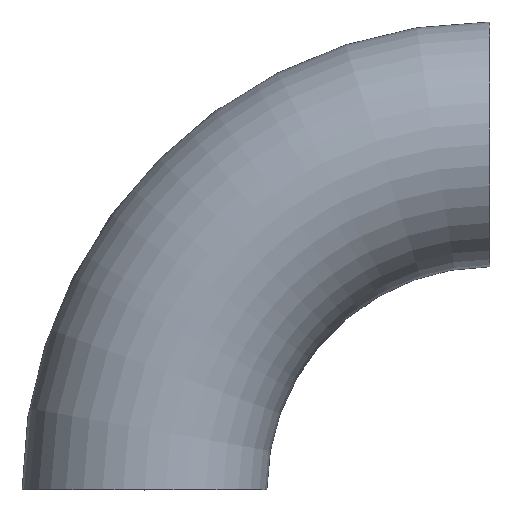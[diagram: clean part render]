
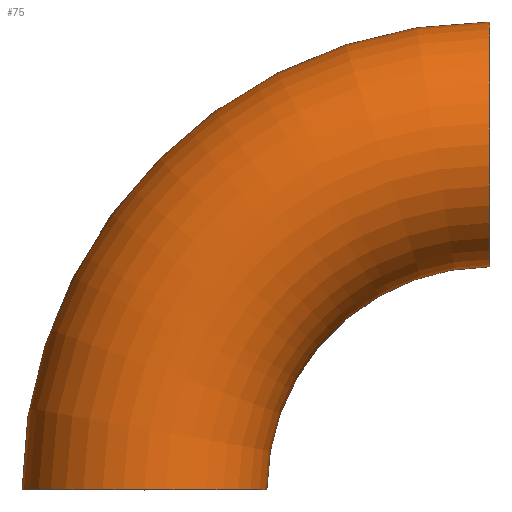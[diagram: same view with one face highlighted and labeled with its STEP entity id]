
A CAD part, top view. The second image highlights one B-rep face of the part: STEP entity #75.
In plain terms, the highlighted toroidal (fillet/blend) face has major radius 457 mm and minor radius 161.95 mm.
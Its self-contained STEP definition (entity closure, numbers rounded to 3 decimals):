
#16 = CARTESIAN_POINT ( 'NONE',  ( 457., 457., 0. ) ) ;
#19 = EDGE_LOOP ( 'NONE', ( #171, #146, #201, #241 ) ) ;
#30 = VERTEX_POINT ( 'NONE', #223 ) ;
#31 = AXIS2_PLACEMENT_3D ( 'NONE', #16, #39, #63 ) ;
#34 = EDGE_CURVE ( 'NONE', #79, #183, #219, .T. ) ;
#39 = DIRECTION ( 'NONE',  ( 1., 0., 0. ) ) ;
#40 = CARTESIAN_POINT ( 'NONE',  ( 457., 295.05, 0. ) ) ;
#54 = DIRECTION ( 'NONE',  ( 0., 0., 1. ) ) ;
#63 = DIRECTION ( 'NONE',  ( 0., 0., 1. ) ) ;
#66 = FACE_OUTER_BOUND ( 'NONE', #19, .T. ) ;
#73 = EDGE_CURVE ( 'NONE', #30, #183, #97, .T. ) ;
#75 = ADVANCED_FACE ( 'NONE', ( #66 ), #128, .T. ) ;
#79 = VERTEX_POINT ( 'NONE', #40 ) ;
#82 = CARTESIAN_POINT ( 'NONE',  ( 457., 0., 0. ) ) ;
#86 = DIRECTION ( 'NONE',  ( 1., 0., 0. ) ) ;
#97 = CIRCLE ( 'NONE', #224, 161.95 ) ;
#99 = CARTESIAN_POINT ( 'NONE',  ( 457., 618.95, 0. ) ) ;
#100 = DIRECTION ( 'NONE',  ( 0., 0., 1. ) ) ;
#101 = CARTESIAN_POINT ( 'NONE',  ( 457., 0., 0. ) ) ;
#104 = DIRECTION ( 'NONE',  ( 1., 0., 0. ) ) ;
#117 = AXIS2_PLACEMENT_3D ( 'NONE', #101, #231, #86 ) ;
#124 = CARTESIAN_POINT ( 'NONE',  ( 161.95, 0., 0. ) ) ;
#128 = TOROIDAL_SURFACE ( 'NONE', #243, 457., 161.95 ) ;
#144 = CIRCLE ( 'NONE', #117, 618.95 ) ;
#146 = ORIENTED_EDGE ( 'NONE', *, *, #195, .T. ) ;
#158 = CARTESIAN_POINT ( 'NONE',  ( 0., 0., 0. ) ) ;
#167 = EDGE_CURVE ( 'NONE', #202, #79, #173, .T. ) ;
#171 = ORIENTED_EDGE ( 'NONE', *, *, #167, .F. ) ;
#173 = CIRCLE ( 'NONE', #31, 161.95 ) ;
#183 = VERTEX_POINT ( 'NONE', #124 ) ;
#190 = DIRECTION ( 'NONE',  ( 1., 0., 0. ) ) ;
#195 = EDGE_CURVE ( 'NONE', #202, #30, #144, .T. ) ;
#199 = AXIS2_PLACEMENT_3D ( 'NONE', #245, #54, #190 ) ;
#201 = ORIENTED_EDGE ( 'NONE', *, *, #73, .T. ) ;
#202 = VERTEX_POINT ( 'NONE', #99 ) ;
#206 = DIRECTION ( 'NONE',  ( 0., 1., 0. ) ) ;
#219 = CIRCLE ( 'NONE', #199, 295.05 ) ;
#223 = CARTESIAN_POINT ( 'NONE',  ( -161.95, 0., 0. ) ) ;
#224 = AXIS2_PLACEMENT_3D ( 'NONE', #158, #206, #100 ) ;
#231 = DIRECTION ( 'NONE',  ( 0., 0., 1. ) ) ;
#241 = ORIENTED_EDGE ( 'NONE', *, *, #34, .F. ) ;
#243 = AXIS2_PLACEMENT_3D ( 'NONE', #82, #250, #104 ) ;
#245 = CARTESIAN_POINT ( 'NONE',  ( 457., 0., 0. ) ) ;
#250 = DIRECTION ( 'NONE',  ( 0., 0., 1. ) ) ;
